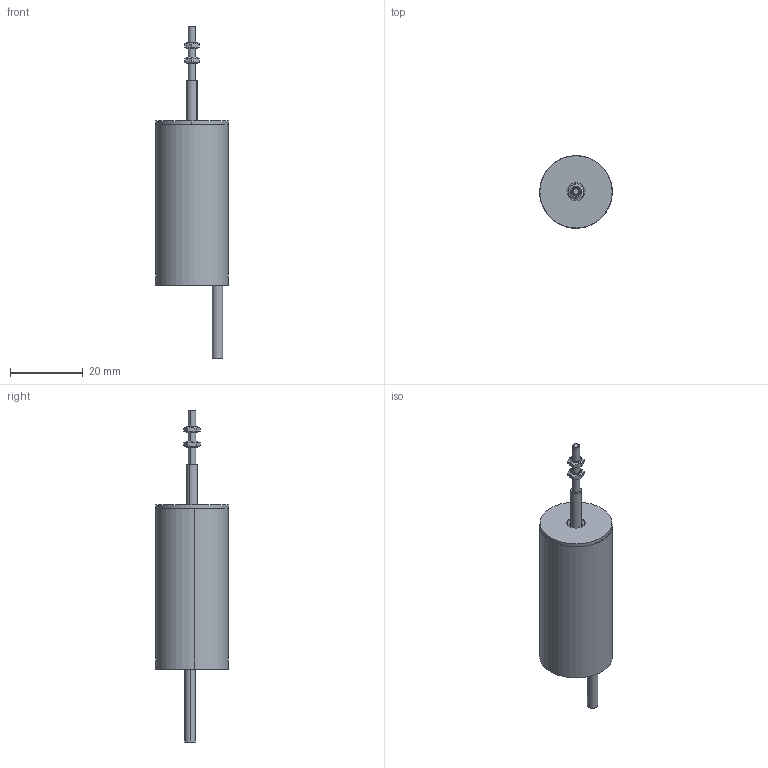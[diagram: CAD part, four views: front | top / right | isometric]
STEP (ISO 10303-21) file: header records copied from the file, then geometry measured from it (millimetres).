
FILE_DESCRIPTION(('STEP AP203'),'1');
FILE_NAME('C:/TPO v2/SharedFS/Outgoing/burster_8740-5001_28l3j19e28bei081xz6iegtg1.stp','2013-08-26T20:10:57',('TraceParts'),('TraceParts S.A.'),'XStep 1.0',' ',' ');
FILE_SCHEMA(('CONFIG_CONTROL_DESIGN'));
Length unit declared in the file: millimetre
Products named in the file (4): 1; 2; 3; 4
Bounding box: 19.83 x 19.83 x 91 mm (x, y, z)
Volume: 13928.6 mm3; surface area: 4979 mm2
Topology: 4 solids, 7 shells, 99 faces, 214 edges, 135 vertices
Faces by surface type: cylinder 36, plane 33, cone 24, torus 6
Entity records: 2876 total; most frequent: DIRECTION 510, CARTESIAN_POINT 498, ORIENTED_EDGE 424, AXIS2_PLACEMENT_3D 219, EDGE_CURVE 212, VERTEX_POINT 135, EDGE_LOOP 117, CIRCLE 116
